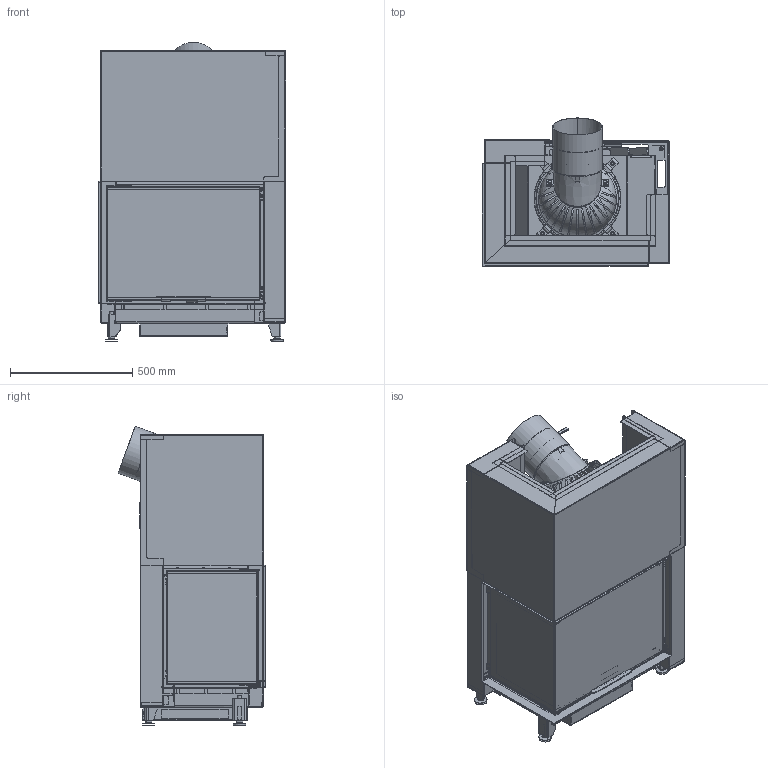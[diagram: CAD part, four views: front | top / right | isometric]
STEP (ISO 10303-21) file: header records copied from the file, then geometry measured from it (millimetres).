
FILE_DESCRIPTION(/* description */ (''),/* implementation_level */ '2;1');
FILE_NAME(/* name */ 'C:\ADSK_DM_WS\CAD_3D\03 Geraete\RII 50x68x42\Zeichnungen\RII_50x68x42_Links_ohne_Mantel_Hinten_Gen2_2022-03290.stp',/* time_stamp */ '2022-08-15T11:09:10+02:00',/* author */ ('TIS'),/* organization */ (''),/* preprocessor_version */ 'ST-DEVELOPER v18.1',/* originating_system */ 'Autodesk Inventor 2022',/* authorisation */ '');
FILE_SCHEMA (('AUTOMOTIVE_DESIGN { 1 0 10303 214 3 1 1 }'));
Products named in the file (7): 2022-03290; 2022-03261; 2022-03260; 2022-03259; 2022-03258; 2022-03257; 2022-03256
Assembly tree (6 placements, depth 2):
  2022-03290
    2022-03261
    2022-03260
    2022-03259
    2022-03258
    2022-03257
    2022-03256
Bounding box: 768.9 x 604.89 x 1225.28 mm (x, y, z)
Volume: 39261156.2 mm3; surface area: 15424209.2 mm2
Topology: 17 solids, 28 shells, 7950 faces, 21352 edges, 13307 vertices
Faces by surface type: plane 4626, cylinder 2866, bspline 227, cone 168, torus 62, sphere 1
Full cylindrical faces by diameter (mm): 3.242 x6, 4.5 x4, 4.8 x11, 6 x5, 7.9 x1, 8 x8, 9 x3, 9.5 x10, 10 x3, 11.192 x3, 11.4 x6, 12 x2, 16 x14, 30 x4, 163 x1, 333 x1, 339 x1
Entity records: 264439 total; most frequent: CARTESIAN_POINT 54676, ORIENTED_EDGE 42614, DIRECTION 42072, EDGE_CURVE 21360, AXIS2_PLACEMENT_3D 14061, LINE 13950, VECTOR 13950, VERTEX_POINT 13309
